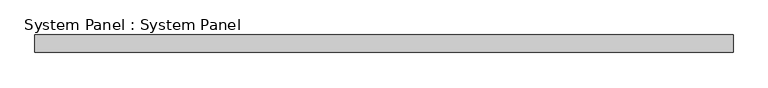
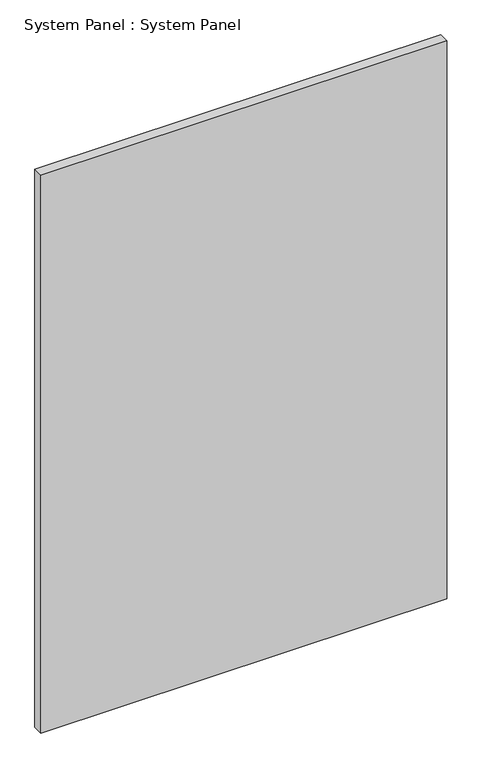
"""IFC4 building model written with IfcOpenShell, lengths in millimetres: plate geometry, System Panel : System Panel."""

from ifc_helpers import new_model, si_unit, origin, origin_with_axes, place, context, project, spatial, polyline, outline, extrude, source, transform, mapped, element, save


def system_panel_system_panel_9bcd561b(model_context):
    return source(origin(), model_context, "Body", "SweptSolid", [
        extrude(outline(polyline([(504.825, 19.05), (-504.825, 19.05), (-504.825, 44.45), (504.825, 44.45), (504.825, 19.05)])), origin_with_axes(), (0.0, 0.0, 1.0), 1466.85),
    ])


if __name__ == "__main__":
    model = new_model("IFC4")
    model_context = context("Model", 3, world=origin())
    ifc_project = project(units=[si_unit("LENGTHUNIT", "METRE", prefix="MILLI")], contexts=[model_context])
    site = spatial("IfcSite", under=ifc_project)
    building = spatial("IfcBuilding", under=site)
    placement = place(None, origin())
    system_panel_system_panel_shape = system_panel_system_panel_9bcd561b(model_context)
    element("IfcPlate", 1, ObjectType="System Panel : System Panel", at=placement, inside=building, context=model_context, shape_type="MappedRepresentation", body=[
        mapped(system_panel_system_panel_shape, transform((0.0, 0.0, 0.0), x_axis=(1.0, 0.0, 0.0), y_axis=(0.0, 1.0, 0.0), z_axis=(0.0, 0.0, 1.0))),
    ])
    save(model, "model.ifc")
